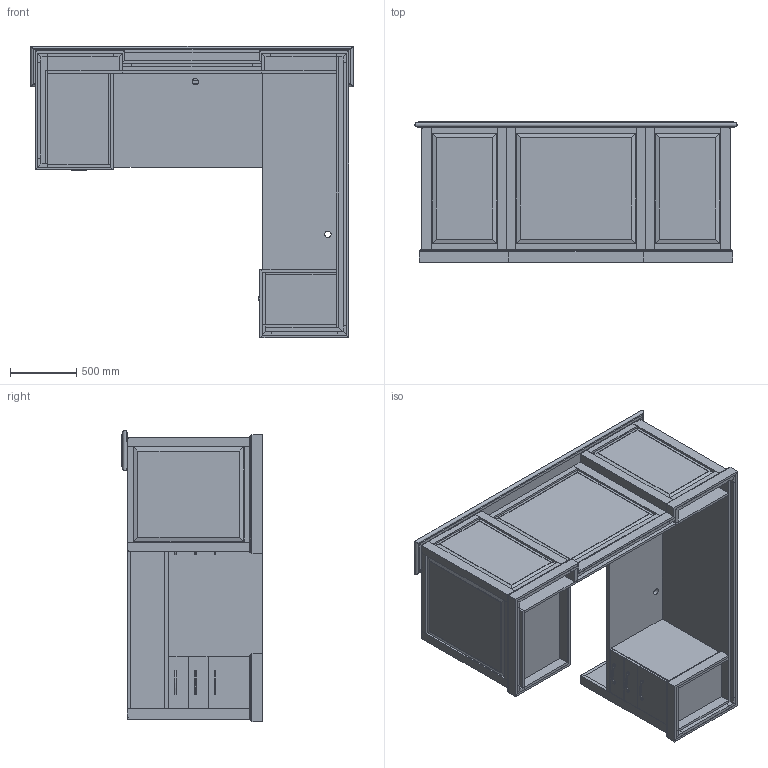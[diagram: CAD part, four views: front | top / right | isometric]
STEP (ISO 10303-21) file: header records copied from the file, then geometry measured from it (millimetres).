
FILE_DESCRIPTION(/* description */ ('','CAx-IF Rec.Pracs.---Representation and Presentation of Product Manufacturing Information (PMI)---4.0---2014-10-13'),/* implementation_level */ '2;1');
FILE_NAME(/* name */ 'RECEPTION_CAMBRIDGE 2.stp',/* time_stamp */ '2024-12-07T18:43:17-05:00',/* author */ ('mbowman'),/* organization */ (''),/* preprocessor_version */ 'ST-DEVELOPER v19.2',/* originating_system */ 'Autodesk Inventor 2023',/* authorisation */ '');
FILE_SCHEMA (('AP242_MANAGED_MODEL_BASED_3D_ENGINEERING_MIM_LF { 1 0 10303 442 1 1 4 }'));
Length unit declared in the file: inch
Products named in the file (3): CAMBRIDGE^ADMIN 2_L-SHAPE-SOLID ASSEMBLY; CAMBRIDGE^ADMIN 2_L-SHAPE-PARTS SOLID; ART DECCO^GLAM-HAFELE 110_34_286
Assembly tree (7 placements, depth 2):
  CAMBRIDGE^ADMIN 2_L-SHAPE-SOLID ASSEMBLY
    CAMBRIDGE^ADMIN 2_L-SHAPE-PARTS SOLID
    ART DECCO^GLAM-HAFELE 110_34_286  x6
Bounding box: 2438.4 x 1066.8 x 2203.45 mm (x, y, z)
Volume: 429643773.9 mm3; surface area: 41402243.5 mm2
Topology: 85 solids, 85 shells, 740 faces, 1598 edges, 1036 vertices
Faces by surface type: plane 618, cylinder 74, torus 48
Full cylindrical faces by diameter (mm): 48.26 x2
Entity records: 20338 total; most frequent: CARTESIAN_POINT 4348, DIRECTION 2828, ORIENTED_EDGE 2756, EDGE_CURVE 1378, LINE 1270, VECTOR 1270, VERTEX_POINT 896, STYLED_ITEM 875
